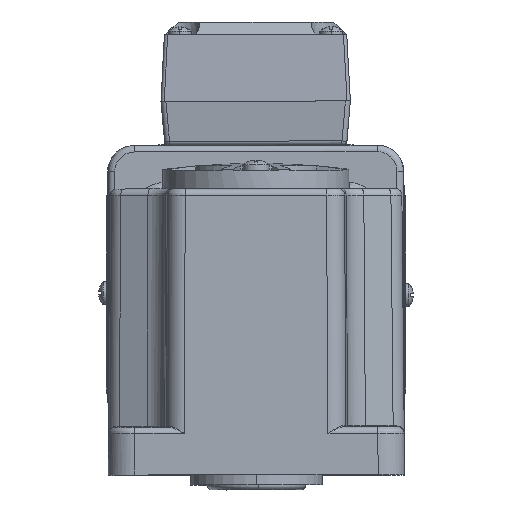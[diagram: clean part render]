
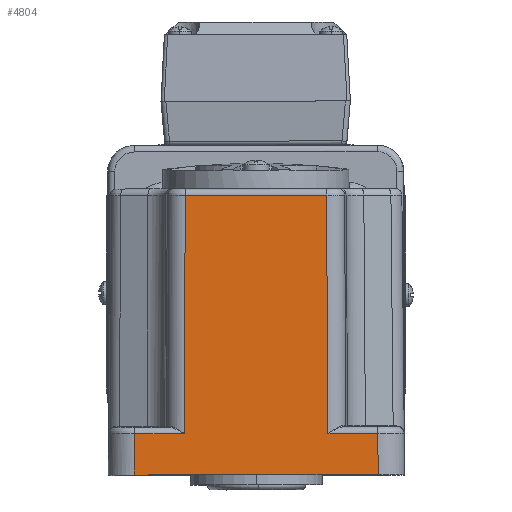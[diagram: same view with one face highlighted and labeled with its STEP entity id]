
A CAD part, top view. The second image highlights one B-rep face of the part: STEP entity #4804.
In plain terms, the highlighted planar face has unit normal (0, 0.008, 1).
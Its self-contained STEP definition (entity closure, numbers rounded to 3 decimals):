
#228 = LINE ( 'NONE', #2262, #17818 ) ;
#442 = VERTEX_POINT ( 'NONE', #3051 ) ;
#598 = LINE ( 'NONE', #12784, #12324 ) ;
#1753 = VECTOR ( 'NONE', #27077, 1000. ) ;
#2262 = CARTESIAN_POINT ( 'NONE',  ( -16.496, -3.41, 291.186 ) ) ;
#2815 = VERTEX_POINT ( 'NONE', #27874 ) ;
#2863 = CARTESIAN_POINT ( 'NONE',  ( 65.934, -15.782, 291.284 ) ) ;
#3051 = CARTESIAN_POINT ( 'NONE',  ( -8.006, -3.395, 291.186 ) ) ;
#3516 = FACE_OUTER_BOUND ( 'NONE', #20563, .T. ) ;
#3760 = LINE ( 'NONE', #27683, #22934 ) ;
#4286 = CARTESIAN_POINT ( 'NONE',  ( -16.496, -3.41, 291.186 ) ) ;
#4749 = DIRECTION ( 'NONE',  ( -1., -0.002, 0. ) ) ;
#4804 = ADVANCED_FACE ( 'NONE', ( #3516 ), #17123, .T. ) ;
#5648 = LINE ( 'NONE', #12795, #24840 ) ;
#6632 = VERTEX_POINT ( 'NONE', #19256 ) ;
#6769 = CARTESIAN_POINT ( 'NONE',  ( -8.082, -15.911, 291.284 ) ) ;
#7828 = EDGE_CURVE ( 'NONE', #28416, #442, #26483, .T. ) ;
#8536 = EDGE_CURVE ( 'NONE', #6632, #22124, #29164, .T. ) ;
#8737 = EDGE_CURVE ( 'NONE', #2815, #19116, #228, .T. ) ;
#8879 = CARTESIAN_POINT ( 'NONE',  ( -16.622, 68.99, 290.617 ) ) ;
#10495 = DIRECTION ( 'NONE',  ( 0.006, 1., -0.008 ) ) ;
#11400 = DIRECTION ( 'NONE',  ( -1., -0.002, 0. ) ) ;
#11730 = ORIENTED_EDGE ( 'NONE', *, *, #30529, .T. ) ;
#12174 = DIRECTION ( 'NONE',  ( 0.002, -1., 0.008 ) ) ;
#12324 = VECTOR ( 'NONE', #17823, 1000. ) ;
#12373 = ORIENTED_EDGE ( 'NONE', *, *, #25198, .F. ) ;
#12784 = CARTESIAN_POINT ( 'NONE',  ( 7.317, 69.031, 290.617 ) ) ;
#12795 = CARTESIAN_POINT ( 'NONE',  ( 65.934, -15.782, 291.284 ) ) ;
#13120 = ORIENTED_EDGE ( 'NONE', *, *, #24505, .T. ) ;
#15018 = DIRECTION ( 'NONE',  ( -1., -0.002, 0. ) ) ;
#15331 = DIRECTION ( 'NONE',  ( -0.01, 1., -0.008 ) ) ;
#15371 = EDGE_CURVE ( 'NONE', #26620, #2815, #5648, .T. ) ;
#15971 = CARTESIAN_POINT ( 'NONE',  ( 7.122, -3.369, 291.186 ) ) ;
#16578 = VERTEX_POINT ( 'NONE', #6769 ) ;
#17123 = PLANE ( 'NONE',  #17177 ) ;
#17177 = AXIS2_PLACEMENT_3D ( 'NONE', #32039, #27146, #12174 ) ;
#17818 = VECTOR ( 'NONE', #4749, 1000. ) ;
#17823 = DIRECTION ( 'NONE',  ( -0.003, -1., 0.008 ) ) ;
#18187 = ORIENTED_EDGE ( 'NONE', *, *, #7828, .T. ) ;
#18472 = CARTESIAN_POINT ( 'NONE',  ( 50.687, -3.293, 291.186 ) ) ;
#19052 = VECTOR ( 'NONE', #21787, 1000. ) ;
#19116 = VERTEX_POINT ( 'NONE', #18472 ) ;
#19256 = CARTESIAN_POINT ( 'NONE',  ( 50.239, 69.106, 290.617 ) ) ;
#20563 = EDGE_LOOP ( 'NONE', ( #18187, #12373, #24277, #21268, #27727, #13120, #23603, #11730 ) ) ;
#21268 = ORIENTED_EDGE ( 'NONE', *, *, #15371, .T. ) ;
#21787 = DIRECTION ( 'NONE',  ( -1., -0.002, 0. ) ) ;
#22124 = VERTEX_POINT ( 'NONE', #28432 ) ;
#22547 = VECTOR ( 'NONE', #11400, 1000. ) ;
#22934 = VECTOR ( 'NONE', #15018, 1000. ) ;
#23576 = EDGE_CURVE ( 'NONE', #26620, #16578, #3760, .T. ) ;
#23599 = VECTOR ( 'NONE', #10495, 1000. ) ;
#23603 = ORIENTED_EDGE ( 'NONE', *, *, #8536, .T. ) ;
#24277 = ORIENTED_EDGE ( 'NONE', *, *, #23576, .F. ) ;
#24505 = EDGE_CURVE ( 'NONE', #19116, #6632, #28319, .T. ) ;
#24580 = CARTESIAN_POINT ( 'NONE',  ( 50.687, -3.293, 291.186 ) ) ;
#24840 = VECTOR ( 'NONE', #15331, 1000. ) ;
#25198 = EDGE_CURVE ( 'NONE', #16578, #442, #30222, .T. ) ;
#25491 = CARTESIAN_POINT ( 'NONE',  ( -8.076, -14.974, 291.277 ) ) ;
#26483 = LINE ( 'NONE', #4286, #19052 ) ;
#26620 = VERTEX_POINT ( 'NONE', #2863 ) ;
#27077 = DIRECTION ( 'NONE',  ( -0.006, 1., -0.008 ) ) ;
#27146 = DIRECTION ( 'NONE',  ( 0., 0.008, 1. ) ) ;
#27683 = CARTESIAN_POINT ( 'NONE',  ( -16.474, -15.926, 291.284 ) ) ;
#27727 = ORIENTED_EDGE ( 'NONE', *, *, #8737, .T. ) ;
#27874 = CARTESIAN_POINT ( 'NONE',  ( 65.814, -3.267, 291.186 ) ) ;
#28319 = LINE ( 'NONE', #24580, #1753 ) ;
#28416 = VERTEX_POINT ( 'NONE', #15971 ) ;
#28432 = CARTESIAN_POINT ( 'NONE',  ( 7.317, 69.031, 290.617 ) ) ;
#29164 = LINE ( 'NONE', #8879, #22547 ) ;
#30222 = LINE ( 'NONE', #25491, #23599 ) ;
#30529 = EDGE_CURVE ( 'NONE', #22124, #28416, #598, .T. ) ;
#32039 = CARTESIAN_POINT ( 'NONE',  ( -16.476, -14.926, 291.276 ) ) ;
